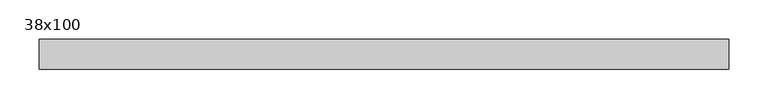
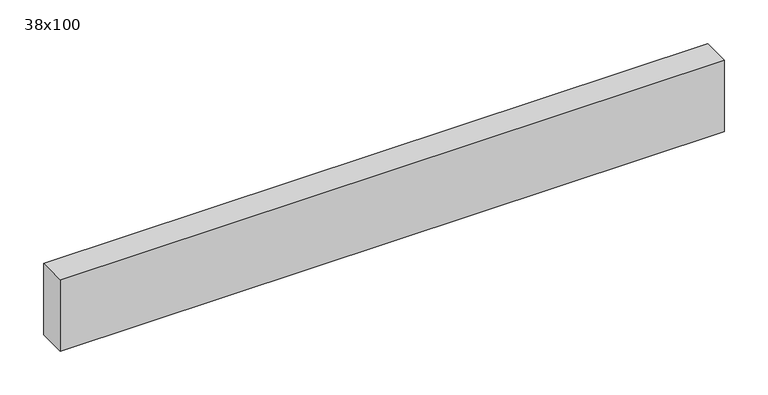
"""IFC4 building model written with IfcOpenShell, lengths in millimetres: beam geometry, Poutre - Bois de construction de dimensions courantes : 38x100."""

import ifcopenshell
import ifcopenshell.guid

model = None  # the IFC model being written
_history = None  # IfcOwnerHistory: only IFC2X3 demands one
_inside = {}  # id of a spatial element -> (the spatial element, [elements in it])
_under = {}  # id of a project, library or spatial element -> (it, [spatial elements below it])
_declared = {}  # id of a project -> (the project, [libraries it declares])
_typed = {}  # id of a type object -> (the type object, [elements of that type])
_made_of = {}  # id of a material, layer set ... -> (it, [elements and type objects made of it])


def new_model(schema):
    """Start an empty IFC model of exactly this schema.

    Asked for "IFC4X3", IfcOpenShell would pick the latest addendum, in which some entities
    have other attributes; the version numbers below select the first issue.
    IFC2X3 requires an IfcOwnerHistory on every rooted entity: one is made here for all.
    """
    global model, _history
    if schema == "IFC4X3":
        model = ifcopenshell.file(schema_version=(4, 3, 0, 0))
    else:
        model = ifcopenshell.file(schema=schema)
    _inside.clear()
    _under.clear()
    _declared.clear()
    _typed.clear()
    _made_of.clear()
    _history = None
    if model.schema == "IFC2X3":
        org = make("IfcOrganization", Name="unknown")
        user = make(
            "IfcPersonAndOrganization",
            ThePerson=make("IfcPerson", FamilyName="unknown"),
            TheOrganization=org,
        )
        app = make(
            "IfcApplication",
            ApplicationDeveloper=org,
            Version="unknown",
            ApplicationFullName="unknown",
            ApplicationIdentifier="unknown",
        )
        _history = make(
            "IfcOwnerHistory",
            OwningUser=user,
            OwningApplication=app,
            ChangeAction="ADDED",
            CreationDate=0,
        )
    return model


def make(cls, **values):
    """One entity of the class cls with the attributes given. An attribute that is None is left unset."""
    return model.create_entity(
        cls, **{name: value for name, value in values.items() if value is not None}
    )


def rooted(cls, **values):
    """An entity with a GlobalId (a new one), such as an element, a storey or a relation."""
    return make(cls, GlobalId=ifcopenshell.guid.new(), OwnerHistory=_history, **values)


def si_unit(unit_type, name, prefix=None):
    """IfcSIUnit, for example si_unit("LENGTHUNIT", "METRE", prefix="MILLI")."""
    return make("IfcSIUnit", UnitType=unit_type, Prefix=prefix, Name=name)


def assignment(units):
    """IfcUnitAssignment: the units of a project."""
    return None if units is None else make("IfcUnitAssignment", Units=units)


def point(xyz):
    """IfcCartesianPoint."""
    return None if xyz is None else make("IfcCartesianPoint", Coordinates=xyz)


def direction(xyz):
    """IfcDirection."""
    return None if xyz is None else make("IfcDirection", DirectionRatios=xyz)


def frame(location, z_axis=None, x_axis=None):
    """IfcAxis2Placement3D, a coordinate frame: its origin and axes. An axis left out is left unset."""
    return make(
        "IfcAxis2Placement3D",
        Location=point(location),
        Axis=direction(z_axis),
        RefDirection=direction(x_axis),
    )


def origin():
    """The frame at (0, 0, 0) with its axes left unset."""
    return frame((0.0, 0.0, 0.0))


def place(relative_to, where):
    """IfcLocalPlacement: puts the frame where relative to a parent placement (None: the world)."""
    return make(
        "IfcLocalPlacement", PlacementRelTo=relative_to, RelativePlacement=where
    )


def context(
    kind, dimensions, precision=None, world=None, true_north=None, identifier=None
):
    """IfcGeometricRepresentationContext, for example the 3D "Model" context."""
    return make(
        "IfcGeometricRepresentationContext",
        ContextIdentifier=identifier,
        ContextType=kind,
        CoordinateSpaceDimension=dimensions,
        Precision=precision,
        WorldCoordinateSystem=world,
        TrueNorth=true_north,
    )


def project(units=None, contexts=None):
    """IfcProject with its units and contexts."""
    return rooted(
        "IfcProject",
        Name="project",
        RepresentationContexts=contexts,
        UnitsInContext=assignment(units),
    )


def spatial(cls, under=None, at=None, **own):
    """A site, building, storey or space (cls), placed at a placement, below another one or the project."""
    s = rooted(cls, ObjectPlacement=at, **own)
    if under is not None:
        _under.setdefault(under.id(), (under, []))[1].append(s)
    return s


def polyline(points):
    """IfcPolyline through the points."""
    return make("IfcPolyline", Points=[point(p) for p in points])


def outline(outer, holes=None, kind="AREA"):
    """IfcArbitraryClosedProfileDef: a profile drawn as a closed curve; with holes, ...WithVoids."""
    if holes is None:
        return make("IfcArbitraryClosedProfileDef", ProfileType=kind, OuterCurve=outer)
    return make(
        "IfcArbitraryProfileDefWithVoids",
        ProfileType=kind,
        OuterCurve=outer,
        InnerCurves=holes,
    )


def extrude(swept, where, along, depth):
    """IfcExtrudedAreaSolid: the profile swept, set in the frame where, extruded along a direction by depth."""
    return make(
        "IfcExtrudedAreaSolid",
        SweptArea=swept,
        Position=where,
        ExtrudedDirection=direction(along),
        Depth=depth,
    )


def shape(context_of_items, identifier, shape_type, items):
    """IfcShapeRepresentation: the items that make up one representation, for example the "Body"."""
    return make(
        "IfcShapeRepresentation",
        ContextOfItems=context_of_items,
        RepresentationIdentifier=identifier,
        RepresentationType=shape_type,
        Items=items,
    )


def source(mapping_origin, context_of_items, identifier, shape_type, items):
    """IfcRepresentationMap: a shape defined once, which mapped items show again and again."""
    return make(
        "IfcRepresentationMap",
        MappingOrigin=mapping_origin,
        MappedRepresentation=shape(context_of_items, identifier, shape_type, items),
    )


def transform(
    local_origin,
    x_axis=None,
    y_axis=None,
    z_axis=None,
    scale=None,
    scale2=None,
    scale3=None,
    uniform=True,
):
    """IfcCartesianTransformationOperator3D, or its non-uniform kind. x_axis, y_axis, z_axis: its Axis1, 2, 3."""
    if uniform:
        return make(
            "IfcCartesianTransformationOperator3D",
            Axis1=direction(x_axis),
            Axis2=direction(y_axis),
            LocalOrigin=point(local_origin),
            Scale=scale,
            Axis3=direction(z_axis),
        )
    return make(
        "IfcCartesianTransformationOperator3DnonUniform",
        Axis1=direction(x_axis),
        Axis2=direction(y_axis),
        LocalOrigin=point(local_origin),
        Scale=scale,
        Axis3=direction(z_axis),
        Scale2=scale2,
        Scale3=scale3,
    )


def mapped(mapping_source, mapping_target):
    """IfcMappedItem: shows the shape of a source again, moved by a transform."""
    return make(
        "IfcMappedItem", MappingSource=mapping_source, MappingTarget=mapping_target
    )


def made_of(thing, what):
    """Note that an element or type object is made of a material, layer set ...; save() writes the relation."""
    if what is not None:
        _made_of.setdefault(what.id(), (what, []))[1].append(thing)
    return thing


def element(
    cls,
    number,
    at=None,
    inside=None,
    cuts=None,
    type_object=None,
    material=None,
    context=None,
    identifier="Body",
    shape_type=None,
    held_by="IfcProductDefinitionShape",
    body=None,
    shapes=None,
    **own,
):
    """One element of the class cls, such as IfcWall. Its Tag is "e" and its number.

    at: its placement. inside: the storey or other place that contains it. cuts: it is an
    opening in that element (IfcRelVoidsElement). A single representation is given by context,
    identifier, shape_type and body (its items); several are given by shapes. held_by: the class
    of the entity that holds the representations. save() writes the other relations.
    """
    e = rooted(cls, Tag="e%d" % number, ObjectPlacement=at, **own)
    if body is not None:
        shapes = [shape(context, identifier, shape_type, body)]
    if shapes is not None:
        e.Representation = make(held_by, Representations=shapes)
    if inside is not None:
        _inside.setdefault(inside.id(), (inside, []))[1].append(e)
    if cuts is not None:
        rooted(
            "IfcRelVoidsElement", RelatingBuildingElement=cuts, RelatedOpeningElement=e
        )
    if type_object is not None:
        _typed.setdefault(type_object.id(), (type_object, []))[1].append(e)
    return made_of(e, material)


def aggregate(whole, parts):
    """IfcRelAggregates: a whole, such as a stair, and the parts it consists of."""
    return rooted("IfcRelAggregates", RelatingObject=whole, RelatedObjects=parts)


def save(model, path):
    """Write the relations noted so far, then the file.

    IfcRelAggregates (storeys below a building ...), IfcRelContainedInSpatialStructure (elements
    in a storey), IfcRelDefinesByType, IfcRelAssociatesMaterial and IfcRelDeclares: one each for
    every whole, place, type object, material and project.
    """
    for whole, parts in _under.values():
        aggregate(whole, parts)
    for where, things in _inside.values():
        rooted(
            "IfcRelContainedInSpatialStructure",
            RelatedElements=things,
            RelatingStructure=where,
        )
    for kind, things in _typed.values():
        rooted("IfcRelDefinesByType", RelatedObjects=things, RelatingType=kind)
    for what, things in _made_of.values():
        rooted("IfcRelAssociatesMaterial", RelatedObjects=things, RelatingMaterial=what)
    for by, libraries in _declared.values():
        rooted("IfcRelDeclares", RelatingContext=by, RelatedDefinitions=libraries)
    model.write(path)


def beam_38x100_3a7ae5e1(model_context):
    return source(origin(), model_context, "Body", "SweptSolid", [
        extrude(outline(polyline([(567.0, 19.05), (567.0, -19.05), (-310.0, -19.05), (-310.0, 19.05), (567.0, 19.05)])), frame((0.0, 0.0, -50.0), z_axis=(0.0, 0.0, 1.0), x_axis=(1.0, 0.0, 0.0)), (0.0, 0.0, 1.0), 100.0),
    ])


if __name__ == "__main__":
    model = new_model("IFC4")
    model_context = context("Model", 3, world=origin())
    ifc_project = project(units=[si_unit("LENGTHUNIT", "METRE", prefix="MILLI")], contexts=[model_context])
    site = spatial("IfcSite", under=ifc_project)
    building = spatial("IfcBuilding", under=site)
    placement = place(None, origin())
    beam_38x100_shape = beam_38x100_3a7ae5e1(model_context)
    element("IfcBeam", 1, ObjectType="Poutre - Bois de construction de dimensions courantes : 38x100", at=placement, inside=building, context=model_context, shape_type="MappedRepresentation", body=[
        mapped(beam_38x100_shape, transform((0.0, 0.0, 0.0), x_axis=(1.0, 0.0, 0.0), y_axis=(0.0, 1.0, 0.0), z_axis=(0.0, 0.0, 1.0))),
    ])
    save(model, "model.ifc")
